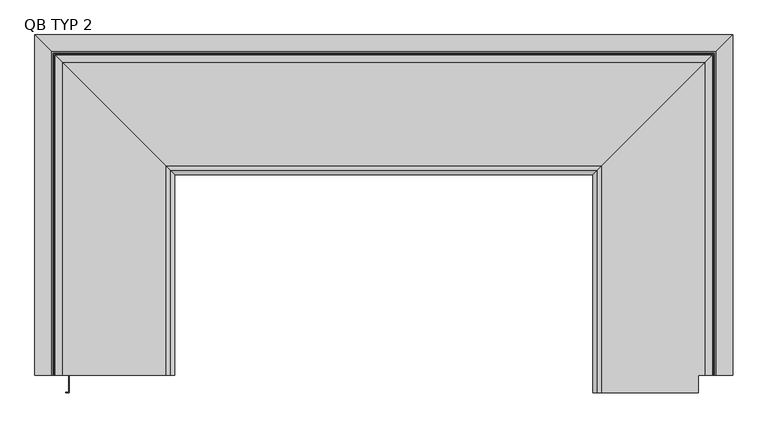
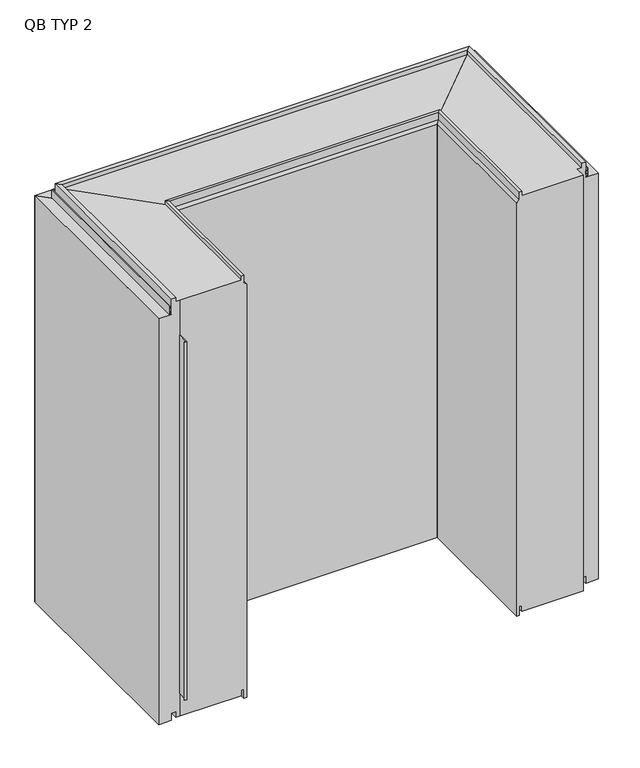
"""IFC4 building model written with IfcOpenShell, lengths in millimetres: plate geometry, TR_C_H_QBISS_U_Corner_Tr : QB TYP 2."""

from ifc_helpers import new_model, si_unit, frame, origin, place, context, project, spatial, polyline, outline, extrude, faceted_brep, source, transform, mapped, element, save


def qb_typ_2_ca77c89d(model_context):
    return source(origin(), model_context, "Body", "SolidModel", [
        extrude(outline(polyline([(-451.0, -512.5), (-456.0, -512.5), (-456.0, -511.7), (-451.8261798, -511.7), (-451.8261798, -487.3), (-451.0, -487.3), (-451.0, -512.5)])), frame((0.0, 0.0, 54.0), z_axis=(0.0, 0.0, 1.0), x_axis=(1.0, 0.0, 0.0)), (0.0, 0.0, 1.0), 862.0),
        faceted_brep([(-300.0, -487.5, -8.0), (-300.0, -487.5, 986.0), (-306.0, -487.5, 992.0), (-306.0, -487.5, 1010.0), (-312.0, -487.5, 1010.0), (-312.0, -487.5, 1000.0), (-451.0, -487.5, 1000.0), (-451.0, -487.5, 0.0), (-312.0, -487.5, 0.0), (-312.0, -487.5, 13.0), (-306.0, -487.5, 13.0), (-306.0, -487.5, -8.0), (-306.0, -194.0, -8.0), (-300.0, -200.0, -8.0), (-306.0, -194.0, 13.0), (-312.0, -188.0, 13.0), (-312.0, -188.0, 0.0), (-451.0, -487.3, 0.0), (-461.0, -487.3, 0.0), (-461.0, -39.0, 0.0), (-461.0, -487.3, 13.0), (-461.0, -39.0, 13.0), (-471.0, -487.3, 13.0), (-471.0, -29.0, 13.0), (-471.0, -487.3, -4.0), (-471.0, -29.0, -4.0), (-500.0, 0.0, -4.0), (-500.0, -487.3, -4.0), (-500.0, -487.3, 973.0), (-500.0, 0.0, 973.0), (-471.0, -487.3, 973.0), (-471.0, -29.0, 973.0), (-471.0, -487.3, 1010.0), (-471.0, -29.0, 1010.0), (-461.0, -487.3, 1010.0), (-461.0, -39.0, 1010.0), (-461.0, -487.3, 1000.0), (-461.0, -39.0, 1000.0), (-312.0, -188.0, 1000.0), (-451.0, -487.3, 1000.0), (-312.0, -188.0, 1010.0), (-306.0, -194.0, 1010.0), (-306.0, -194.0, 992.0), (-300.0, -200.0, 986.0)], [[[0, 1, 2, 3, 4, 5, 6, 7, 8, 9, 10, 11]], [[11, 12, 13, 0]], [[10, 14, 12, 11]], [[9, 15, 14, 10]], [[8, 16, 15, 9]], [[7, 17, 18, 19, 16, 8]], [[20, 21, 19, 18]], [[22, 23, 21, 20]], [[24, 25, 23, 22]], [[26, 25, 24, 27]], [[27, 28, 29, 26]], [[28, 30, 31, 29]], [[32, 33, 31, 30]], [[34, 35, 33, 32]], [[36, 37, 35, 34]], [[5, 38, 37, 36, 39, 6]], [[4, 40, 38, 5]], [[3, 41, 40, 4]], [[2, 42, 41, 3]], [[1, 43, 42, 2]], [[0, 13, 43, 1]], [[17, 7, 6, 39]], [[39, 36, 34, 32, 30, 28, 27, 24, 22, 20, 18, 17]], [[12, 14, 15, 16, 19, 21, 23, 25, 26, 29, 31, 33, 35, 37, 38, 40, 41, 42, 43, 13]]]),
        faceted_brep([(300.0, -512.4, -8.0), (306.0, -512.4, -8.0), (306.0, -512.4, 13.0), (312.0, -512.4, 13.0), (312.0, -512.4, 0.0), (451.0, -512.4, 0.0), (451.0, -512.4, 1000.0), (312.0, -512.4, 1000.0), (312.0, -512.4, 1010.0), (306.0, -512.4, 1010.0), (306.0, -512.4, 992.0), (300.0, -512.4, 986.0), (300.0, -200.0, -8.0), (306.0, -194.0, -8.0), (306.0, -194.0, 13.0), (312.0, -188.0, 13.0), (312.0, -188.0, 0.0), (461.0, -39.0, 0.0), (461.0, -487.3, 0.0), (451.0, -487.3, 0.0), (461.0, -487.3, 13.0), (461.0, -39.0, 13.0), (471.0, -487.3, 13.0), (471.0, -29.0, 13.0), (471.0, -487.3, -4.0), (471.0, -29.0, -4.0), (500.0, 0.0, -4.0), (500.0, -487.3, -4.0), (500.0, 0.0, 973.0), (500.0, -487.3, 973.0), (471.0, -29.0, 973.0), (471.0, -487.3, 973.0), (471.0, -487.3, 1010.0), (471.0, -29.0, 1010.0), (461.0, -487.3, 1010.0), (461.0, -39.0, 1010.0), (461.0, -487.3, 1000.0), (461.0, -39.0, 1000.0), (451.0, -487.3, 1000.0), (312.0, -188.0, 1000.0), (312.0, -188.0, 1010.0), (306.0, -194.0, 1010.0), (306.0, -194.0, 992.0), (300.0, -200.0, 986.0)], [[[0, 1, 2, 3, 4, 5, 6, 7, 8, 9, 10, 11]], [[1, 0, 12, 13]], [[2, 1, 13, 14]], [[3, 2, 14, 15]], [[4, 3, 15, 16]], [[5, 4, 16, 17, 18, 19]], [[20, 18, 17, 21]], [[22, 20, 21, 23]], [[24, 22, 23, 25]], [[26, 27, 24, 25]], [[27, 26, 28, 29]], [[29, 28, 30, 31]], [[32, 31, 30, 33]], [[34, 32, 33, 35]], [[36, 34, 35, 37]], [[7, 6, 38, 36, 37, 39]], [[8, 7, 39, 40]], [[9, 8, 40, 41]], [[10, 9, 41, 42]], [[11, 10, 42, 43]], [[0, 11, 43, 12]], [[19, 38, 6, 5]], [[38, 19, 18, 20, 22, 24, 27, 29, 31, 32, 34, 36]], [[13, 12, 43, 42, 41, 40, 39, 37, 35, 33, 30, 28, 26, 25, 23, 21, 17, 16, 15, 14]]]),
        faceted_brep([(461.0, -39.0, 0.0), (312.0, -188.0, 0.0), (-312.0, -188.0, 0.0), (-461.0, -39.0, 0.0), (461.0, -39.0, 13.0), (-461.0, -39.0, 13.0), (471.0, -29.0, 13.0), (-471.0, -29.0, 13.0), (471.0, -29.0, -4.0), (-471.0, -29.0, -4.0), (-500.0, 0.0, -4.0), (500.0, 0.0, -4.0), (-500.0, 0.0, 973.0), (500.0, 0.0, 973.0), (-471.0, -29.0, 973.0), (471.0, -29.0, 973.0), (471.0, -29.0, 1010.0), (-471.0, -29.0, 1010.0), (461.0, -39.0, 1010.0), (-461.0, -39.0, 1010.0), (461.0, -39.0, 1000.0), (-461.0, -39.0, 1000.0), (312.0, -188.0, 1000.0), (-312.0, -188.0, 1000.0), (312.0, -188.0, 1010.0), (-312.0, -188.0, 1010.0), (306.0, -194.0, 1010.0), (-306.0, -194.0, 1010.0), (306.0, -194.0, 992.0), (-306.0, -194.0, 992.0), (300.0, -200.0, 986.0), (-300.0, -200.0, 986.0), (300.0, -200.0, -8.0), (-300.0, -200.0, -8.0), (306.0, -194.0, -8.0), (-306.0, -194.0, -8.0), (306.0, -194.0, 13.0), (-306.0, -194.0, 13.0), (312.0, -188.0, 13.0), (-312.0, -188.0, 13.0)], [[[0, 1, 2, 3]], [[4, 0, 3, 5]], [[6, 4, 5, 7]], [[8, 6, 7, 9]], [[10, 11, 8, 9]], [[11, 10, 12, 13]], [[13, 12, 14, 15]], [[16, 15, 14, 17]], [[18, 16, 17, 19]], [[20, 18, 19, 21]], [[22, 20, 21, 23]], [[24, 22, 23, 25]], [[26, 24, 25, 27]], [[28, 26, 27, 29]], [[30, 28, 29, 31]], [[32, 30, 31, 33]], [[34, 32, 33, 35]], [[36, 34, 35, 37]], [[38, 36, 37, 39]], [[1, 38, 39, 2]], [[1, 0, 4, 6, 8, 11, 13, 15, 16, 18, 20, 22, 24, 26, 28, 30, 32, 34, 36, 38]], [[3, 2, 39, 37, 35, 33, 31, 29, 27, 25, 23, 21, 19, 17, 14, 12, 10, 9, 7, 5]]]),
        faceted_brep([(476.0, -487.3, 994.5), (474.5001683, -487.3, 994.5), (474.5001683, -487.3, 987.7023593), (472.0001707, -487.3, 987.7023593), (472.0001707, -487.3, 988.5023593), (471.2001572, -487.3, 988.5023593), (471.2001572, -487.3, 980.5023028), (472.0001707, -487.3, 980.5023028), (472.0001707, -487.3, 981.3023028), (474.5001683, -487.3, 981.3023028), (474.5001683, -487.3, 974.5), (476.0, -487.3, 974.5), (-476.0, -487.3, 994.5), (-476.0, -487.3, 974.5), (-474.5001683, -487.3, 974.5), (-474.5001683, -487.3, 981.3023028), (-472.0001707, -487.3, 981.3023028), (-472.0001707, -487.3, 980.5023028), (-471.2001572, -487.3, 980.5023028), (-471.2001572, -487.3, 988.5023593), (-472.0001707, -487.3, 988.5023593), (-472.0001707, -487.3, 987.7023593), (-474.5001683, -487.3, 987.7023593), (-474.5001683, -487.3, 994.5), (476.0, -24.0, 994.5), (-476.0, -24.0, 994.5), (-474.5001683, -25.4998317, 994.5), (474.5001683, -25.4998317, 994.5), (474.5001683, -25.4998317, 987.7023593), (-474.5001683, -25.4998317, 987.7023593), (-472.0001707, -27.9998293, 987.7023593), (472.0001707, -27.9998293, 987.7023593), (472.0001707, -27.9998293, 988.5023593), (-472.0001707, -27.9998293, 988.5023593), (-471.2001572, -28.7998428, 988.5023593), (471.2001572, -28.7998428, 988.5023593), (471.2001572, -28.7998428, 980.5023028), (-471.2001572, -28.7998428, 980.5023028), (-472.0001707, -27.9998293, 980.5023028), (472.0001707, -27.9998293, 980.5023028), (472.0001707, -27.9998293, 981.3023028), (-472.0001707, -27.9998293, 981.3023028), (-474.5001683, -25.4998317, 981.3023028), (474.5001683, -25.4998317, 981.3023028), (474.5001683, -25.4998317, 974.5), (-474.5001683, -25.4998317, 974.5), (-476.0, -24.0, 974.5), (476.0, -24.0, 974.5)], [[[0, 1, 2, 3, 4, 5, 6, 7, 8, 9, 10, 11]], [[12, 13, 14, 15, 16, 17, 18, 19, 20, 21, 22, 23]], [[1, 0, 24, 25, 12, 23, 26, 27]], [[2, 1, 27, 28]], [[3, 2, 28, 29, 22, 21, 30, 31]], [[4, 3, 31, 32]], [[5, 4, 32, 33, 20, 19, 34, 35]], [[6, 5, 35, 36]], [[7, 6, 36, 37, 18, 17, 38, 39]], [[8, 7, 39, 40]], [[9, 8, 40, 41, 16, 15, 42, 43]], [[10, 9, 43, 44]], [[11, 10, 44, 45, 14, 13, 46, 47]], [[0, 11, 47, 24]], [[28, 27, 26, 29]], [[32, 31, 30, 33]], [[36, 35, 34, 37]], [[40, 39, 38, 41]], [[44, 43, 42, 45]], [[24, 47, 46, 25]], [[29, 26, 23, 22]], [[33, 30, 21, 20]], [[37, 34, 19, 18]], [[41, 38, 17, 16]], [[45, 42, 15, 14]], [[25, 46, 13, 12]]]),
    ])


if __name__ == "__main__":
    model = new_model("IFC4")
    model_context = context("Model", 3, world=origin())
    ifc_project = project(units=[si_unit("LENGTHUNIT", "METRE", prefix="MILLI")], contexts=[model_context])
    site = spatial("IfcSite", under=ifc_project)
    building = spatial("IfcBuilding", under=site)
    placement = place(None, origin())
    qb_typ_2_shape = qb_typ_2_ca77c89d(model_context)
    element("IfcPlate", 1, ObjectType="TR_C_H_QBISS_U_Corner_Tr : QB TYP 2", at=placement, inside=building, context=model_context, shape_type="MappedRepresentation", body=[
        mapped(qb_typ_2_shape, transform((0.0, 0.0, 0.0), x_axis=(1.0, 0.0, 0.0), y_axis=(0.0, 1.0, 0.0), z_axis=(0.0, 0.0, 1.0))),
    ])
    save(model, "model.ifc")
